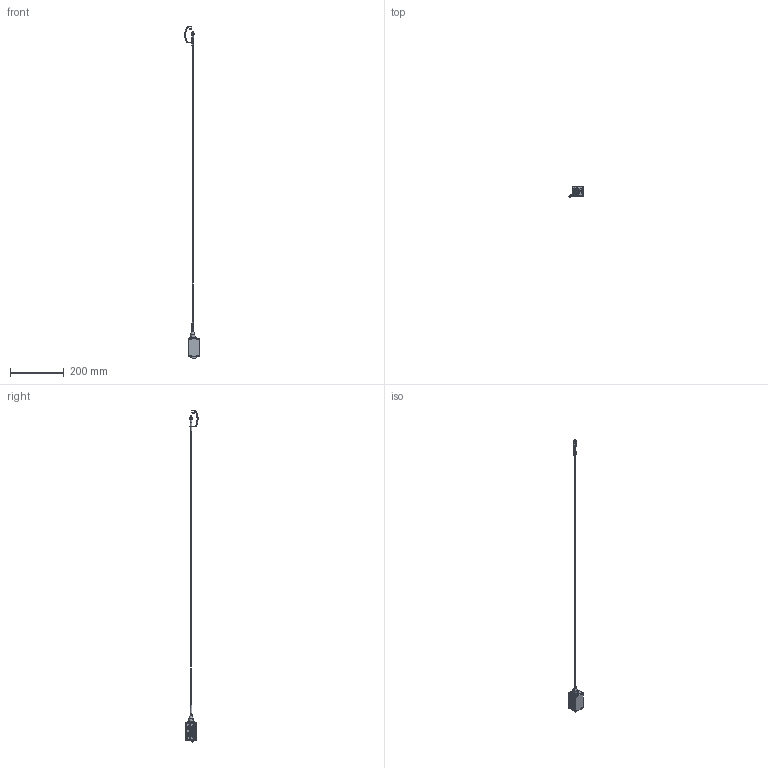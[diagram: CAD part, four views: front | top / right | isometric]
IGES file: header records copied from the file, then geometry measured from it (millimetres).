
Start section: SolidWorks IGES file using analytic representation for surfaces
Global section: file name: N:\POR\Eng\SolidWorksVault\FILES_DAN_LEWIS\Catalog files\OBIS Coherent web site\OBIS Head and Emission Indicator\OBIS FP.IGS; native system: SolidWorks 2012; preprocessor: SolidWorks 2012; author: lewisd; date: 120118.110506; units: inch
Bounding box: 54.28 x 45.22 x 1237.09 mm (x, y, z)
Surface area: 33517.1 mm2 (no closed solid volume)
Topology: 0 solids, 0 shells, 649 faces, 42172 edges, 42171 vertices
Faces by surface type: bspline 457, revolution 192
